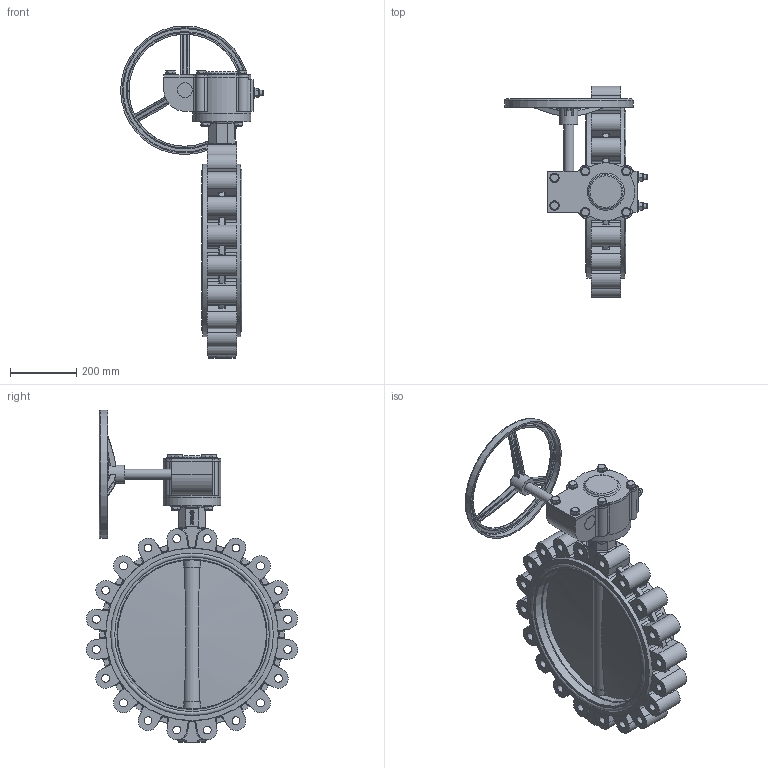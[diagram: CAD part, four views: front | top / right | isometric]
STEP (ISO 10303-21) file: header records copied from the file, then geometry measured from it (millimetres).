
FILE_DESCRIPTION(('STEP AP242'), '1');
FILE_NAME('Ïîâîðîòíûé çàòâîð ïîä ýëåêòðîïðèâîä', '', ('UNSPECIFIED'), ('UNSPECIFIED'), 'C3D Converter', 'C3D Toolkit', '');
FILE_SCHEMA(('AP242_MANAGED_MODEL_BASED_3D_ENGINEERING_MIM_LF { 1 0 10303 442 1 1 4 }'));
Length unit declared in the file: millimetre
Products named in the file (17): П
Assembly tree (36 placements, depth 3):
  (unnamed)
    (unnamed)
    П  x2
    (unnamed)
    (unnamed)
    (unnamed)
    (unnamed)
      (unnamed)
      (unnamed)
      (unnamed)
      (unnamed)
      (unnamed)  x6
      (unnamed)  x6
      (unnamed)  x2
      (unnamed)  x2
      (unnamed)
    (unnamed)  x4
    (unnamed)  x4
Bounding box: 431 x 637.79 x 1002.5 mm (x, y, z)
Volume: 22789676.8 mm3; surface area: 2545391.3 mm2
Topology: 35 solids, 35 shells, 1267 faces, 3121 edges, 1981 vertices
Faces by surface type: plane 508, cylinder 370, torus 153, extrusion 135, bspline 53, cone 44, sphere 4
Full cylindrical faces by diameter (mm): 6 x2, 12.564 x1, 14.376 x2, 16 x30, 17 x10, 18 x4, 23.752 x20, 28 x10, 30 x3, 36 x5, 39.6 x1, 45 x2, 50.912 x5, 54.15 x4, 55 x1, 175 x2, 338 x1, 348 x1, 378 x1, 388 x1, 450 x1, 453.375 x2, 466.875 x2, 478.938 x4, 491 x4, 520.633 x2
Entity records: 49392 total; most frequent: CARTESIAN_POINT 20294, ORIENTED_EDGE 5332, DIRECTION 5049, EDGE_CURVE 2666, AXIS2_PLACEMENT_3D 1876, VERTEX_POINT 1775, EDGE_LOOP 1361, VECTOR 1297
